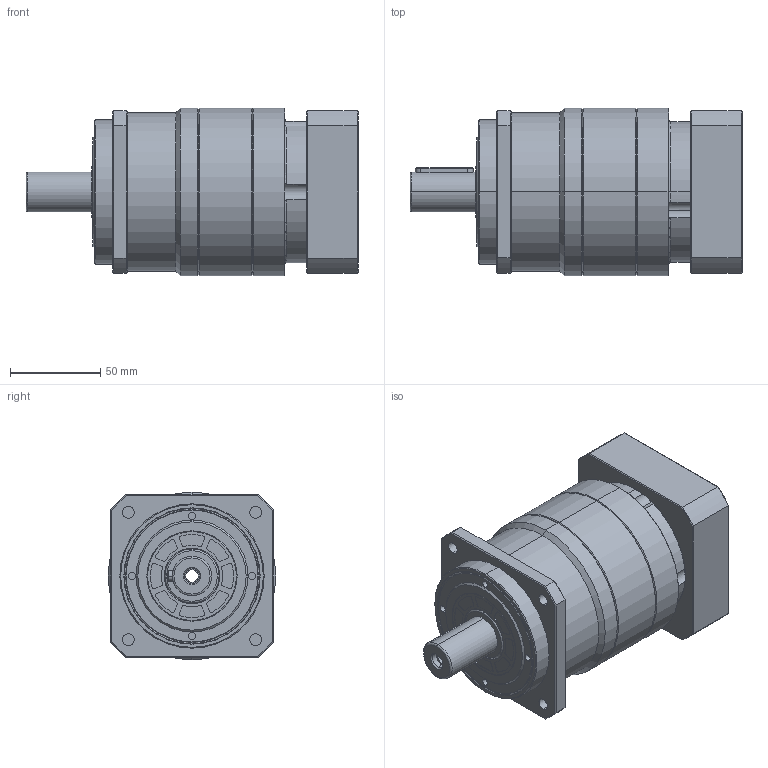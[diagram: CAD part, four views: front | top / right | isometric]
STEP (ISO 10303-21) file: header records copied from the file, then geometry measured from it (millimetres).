
FILE_DESCRIPTION (( 'STEP AP203' ), '1' );
FILE_NAME ('KS90-10X5-70-19-48-M5-90.STEP', '2020-08-12T02:16:27', ( '微软用户' ), ( '微软中国' ), 'SwSTEP 2.0', 'SolidWorks 2008', '' );
FILE_SCHEMA (( 'CONFIG_CONTROL_DESIGN' ));
Length unit declared in the file: millimetre
Products named in the file (1): KS90-10X5-70-19-48-M5-90
Bounding box: 184 x 93 x 93 mm (x, y, z)
Surface area: 96446.8 mm2 (no closed solid volume)
Topology: 0 solids, 24 shells, 432 faces, 1360 edges, 919 vertices
Faces by surface type: plane 163, cylinder 156, cone 78, torus 35
Entity records: 15580 total; most frequent: CARTESIAN_POINT 3259, DIRECTION 2756, ORIENTED_EDGE 2256, EDGE_CURVE 1352, AXIS2_PLACEMENT_3D 1070, VERTEX_POINT 919, CIRCLE 637, VECTOR 616
